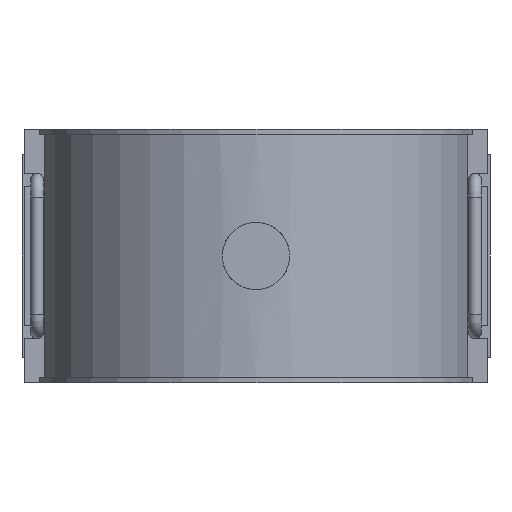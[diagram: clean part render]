
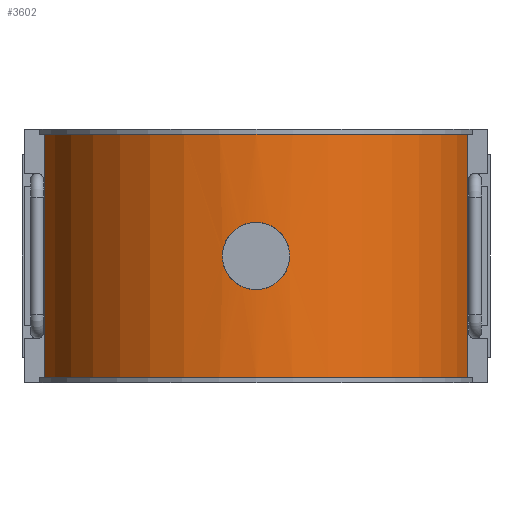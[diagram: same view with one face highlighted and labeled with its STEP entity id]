
A CAD part, front view. The second image highlights one B-rep face of the part: STEP entity #3602.
In plain terms, the highlighted cylindrical face has radius 100.8 mm (diameter 201.6 mm), a partial arc.
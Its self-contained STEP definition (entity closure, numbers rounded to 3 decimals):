
#57=FACE_BOUND('',#543,.T.);
#86=B_SPLINE_CURVE_WITH_KNOTS('',3,(#5706,#5707,#5708,#5709,#5710,#5711,
#5712,#5713,#5714,#5715,#5716,#5717,#5718,#5719,#5720,#5721,#5722,#5723,
#5724,#5725,#5726,#5727,#5728,#5729,#5730,#5731,#5732,#5733,#5734,#5735,
#5736,#5737,#5738,#5739),.UNSPECIFIED.,.F.,.F.,(4,2,2,2,2,2,2,2,2,2,2,2,
2,2,2,2,4),(0.,0.296,0.592,0.888,1.183,
1.479,1.775,2.071,2.367,2.663,
2.958,3.254,3.55,3.846,4.142,
4.438,4.733),.UNSPECIFIED.);
#87=B_SPLINE_CURVE_WITH_KNOTS('',3,(#5740,#5741,#5742,#5743,#5744,#5745,
#5746,#5747,#5748,#5749,#5750,#5751,#5752,#5753,#5754,#5755,#5756,#5757,
#5758,#5759,#5760,#5761,#5762,#5763,#5764,#5765,#5766,#5767,#5768,#5769,
#5770,#5771,#5772,#5773),.UNSPECIFIED.,.F.,.F.,(4,2,2,2,2,2,2,2,2,2,2,2,
2,2,2,2,4),(4.733,5.029,5.325,5.621,
5.917,6.213,6.508,6.804,7.1,
7.396,7.692,7.988,8.283,8.579,
8.875,9.171,9.467),.UNSPECIFIED.);
#335=FACE_OUTER_BOUND('',#542,.T.);
#542=EDGE_LOOP('',(#2828,#2829,#2830,#2831));
#543=EDGE_LOOP('',(#2832,#2833));
#749=CIRCLE('',#3884,100.8);
#761=CIRCLE('',#3905,100.8);
#929=LINE('',#6227,#1261);
#959=LINE('',#6391,#1291);
#1261=VECTOR('',#4495,10.);
#1291=VECTOR('',#4567,10.);
#1597=VERTEX_POINT('',#5703);
#1598=VERTEX_POINT('',#5705);
#1625=VERTEX_POINT('',#6159);
#1626=VERTEX_POINT('',#6161);
#1641=VERTEX_POINT('',#6226);
#1659=VERTEX_POINT('',#6296);
#1997=EDGE_CURVE('',#1598,#1597,#86,.T.);
#1998=EDGE_CURVE('',#1597,#1598,#87,.T.);
#2032=EDGE_CURVE('',#1625,#1626,#749,.T.);
#2050=EDGE_CURVE('',#1641,#1625,#929,.T.);
#2075=EDGE_CURVE('',#1659,#1641,#761,.T.);
#2099=EDGE_CURVE('',#1659,#1626,#959,.T.);
#2828=ORIENTED_EDGE('',*,*,#2032,.T.);
#2829=ORIENTED_EDGE('',*,*,#2099,.F.);
#2830=ORIENTED_EDGE('',*,*,#2075,.T.);
#2831=ORIENTED_EDGE('',*,*,#2050,.T.);
#2832=ORIENTED_EDGE('',*,*,#1997,.T.);
#2833=ORIENTED_EDGE('',*,*,#1998,.T.);
#3497=CYLINDRICAL_SURFACE('',#3913,100.8);
#3602=ADVANCED_FACE('',(#335,#57),#3497,.T.);
#3884=AXIS2_PLACEMENT_3D('',#6163,#4467,#4468);
#3905=AXIS2_PLACEMENT_3D('',#6297,#4536,#4537);
#3913=AXIS2_PLACEMENT_3D('',#6392,#4568,#4569);
#4467=DIRECTION('center_axis',(0.,0.,1.));
#4468=DIRECTION('ref_axis',(-1.,0.,0.));
#4495=DIRECTION('',(0.,0.,-1.));
#4536=DIRECTION('center_axis',(0.,0.,-1.));
#4537=DIRECTION('ref_axis',(-1.,0.,0.));
#4567=DIRECTION('',(0.,0.,-1.));
#4568=DIRECTION('center_axis',(0.,0.,1.));
#4569=DIRECTION('ref_axis',(-1.,0.,0.));
#5703=CARTESIAN_POINT('',(-15.68,-99.573,0.));
#5705=CARTESIAN_POINT('',(15.68,-99.573,0.));
#5706=CARTESIAN_POINT('Ctrl Pts',(15.68,-99.573,0.));
#5707=CARTESIAN_POINT('Ctrl Pts',(15.68,-99.573,-0.986));
#5708=CARTESIAN_POINT('Ctrl Pts',(15.585,-99.588,-2.005));
#5709=CARTESIAN_POINT('Ctrl Pts',(15.188,-99.649,-4.032));
#5710=CARTESIAN_POINT('Ctrl Pts',(14.885,-99.696,-5.039));
#5711=CARTESIAN_POINT('Ctrl Pts',(14.084,-99.812,-6.97));
#5712=CARTESIAN_POINT('Ctrl Pts',(13.586,-99.882,-7.896));
#5713=CARTESIAN_POINT('Ctrl Pts',(12.435,-100.032,-9.607));
#5714=CARTESIAN_POINT('Ctrl Pts',(11.783,-100.111,-10.392));
#5715=CARTESIAN_POINT('Ctrl Pts',(10.392,-100.265,-11.783));
#5716=CARTESIAN_POINT('Ctrl Pts',(9.607,-100.345,-12.435));
#5717=CARTESIAN_POINT('Ctrl Pts',(7.896,-100.494,-13.586));
#5718=CARTESIAN_POINT('Ctrl Pts',(6.97,-100.563,-14.084));
#5719=CARTESIAN_POINT('Ctrl Pts',(5.039,-100.679,-14.885));
#5720=CARTESIAN_POINT('Ctrl Pts',(4.032,-100.724,-15.188));
#5721=CARTESIAN_POINT('Ctrl Pts',(2.005,-100.785,-15.585));
#5722=CARTESIAN_POINT('Ctrl Pts',(0.986,-100.8,-15.68));
#5723=CARTESIAN_POINT('Ctrl Pts',(-0.986,-100.8,-15.68));
#5724=CARTESIAN_POINT('Ctrl Pts',(-2.005,-100.785,-15.585));
#5725=CARTESIAN_POINT('Ctrl Pts',(-4.032,-100.724,-15.188));
#5726=CARTESIAN_POINT('Ctrl Pts',(-5.039,-100.679,-14.885));
#5727=CARTESIAN_POINT('Ctrl Pts',(-6.97,-100.563,-14.084));
#5728=CARTESIAN_POINT('Ctrl Pts',(-7.896,-100.494,-13.586));
#5729=CARTESIAN_POINT('Ctrl Pts',(-9.607,-100.345,-12.435));
#5730=CARTESIAN_POINT('Ctrl Pts',(-10.392,-100.265,-11.783));
#5731=CARTESIAN_POINT('Ctrl Pts',(-11.783,-100.111,-10.392));
#5732=CARTESIAN_POINT('Ctrl Pts',(-12.435,-100.032,-9.607));
#5733=CARTESIAN_POINT('Ctrl Pts',(-13.586,-99.882,-7.896));
#5734=CARTESIAN_POINT('Ctrl Pts',(-14.084,-99.812,-6.97));
#5735=CARTESIAN_POINT('Ctrl Pts',(-14.885,-99.696,-5.039));
#5736=CARTESIAN_POINT('Ctrl Pts',(-15.188,-99.649,-4.032));
#5737=CARTESIAN_POINT('Ctrl Pts',(-15.585,-99.588,-2.005));
#5738=CARTESIAN_POINT('Ctrl Pts',(-15.68,-99.573,-0.986));
#5739=CARTESIAN_POINT('Ctrl Pts',(-15.68,-99.573,0.));
#5740=CARTESIAN_POINT('Ctrl Pts',(-15.68,-99.573,0.));
#5741=CARTESIAN_POINT('Ctrl Pts',(-15.68,-99.573,0.986));
#5742=CARTESIAN_POINT('Ctrl Pts',(-15.585,-99.588,2.005));
#5743=CARTESIAN_POINT('Ctrl Pts',(-15.188,-99.649,4.032));
#5744=CARTESIAN_POINT('Ctrl Pts',(-14.885,-99.696,5.039));
#5745=CARTESIAN_POINT('Ctrl Pts',(-14.084,-99.812,6.97));
#5746=CARTESIAN_POINT('Ctrl Pts',(-13.586,-99.882,7.896));
#5747=CARTESIAN_POINT('Ctrl Pts',(-12.435,-100.032,9.607));
#5748=CARTESIAN_POINT('Ctrl Pts',(-11.783,-100.111,10.392));
#5749=CARTESIAN_POINT('Ctrl Pts',(-10.392,-100.265,11.783));
#5750=CARTESIAN_POINT('Ctrl Pts',(-9.607,-100.345,12.435));
#5751=CARTESIAN_POINT('Ctrl Pts',(-7.896,-100.494,13.586));
#5752=CARTESIAN_POINT('Ctrl Pts',(-6.97,-100.563,14.084));
#5753=CARTESIAN_POINT('Ctrl Pts',(-5.039,-100.679,14.885));
#5754=CARTESIAN_POINT('Ctrl Pts',(-4.032,-100.724,15.188));
#5755=CARTESIAN_POINT('Ctrl Pts',(-2.005,-100.785,15.585));
#5756=CARTESIAN_POINT('Ctrl Pts',(-0.986,-100.8,15.68));
#5757=CARTESIAN_POINT('Ctrl Pts',(0.986,-100.8,15.68));
#5758=CARTESIAN_POINT('Ctrl Pts',(2.005,-100.785,15.585));
#5759=CARTESIAN_POINT('Ctrl Pts',(4.032,-100.724,15.188));
#5760=CARTESIAN_POINT('Ctrl Pts',(5.039,-100.679,14.885));
#5761=CARTESIAN_POINT('Ctrl Pts',(6.97,-100.563,14.084));
#5762=CARTESIAN_POINT('Ctrl Pts',(7.896,-100.494,13.586));
#5763=CARTESIAN_POINT('Ctrl Pts',(9.607,-100.345,12.435));
#5764=CARTESIAN_POINT('Ctrl Pts',(10.392,-100.265,11.783));
#5765=CARTESIAN_POINT('Ctrl Pts',(11.783,-100.111,10.392));
#5766=CARTESIAN_POINT('Ctrl Pts',(12.435,-100.032,9.607));
#5767=CARTESIAN_POINT('Ctrl Pts',(13.586,-99.882,7.896));
#5768=CARTESIAN_POINT('Ctrl Pts',(14.084,-99.812,6.97));
#5769=CARTESIAN_POINT('Ctrl Pts',(14.885,-99.696,5.039));
#5770=CARTESIAN_POINT('Ctrl Pts',(15.188,-99.649,4.032));
#5771=CARTESIAN_POINT('Ctrl Pts',(15.585,-99.588,2.005));
#5772=CARTESIAN_POINT('Ctrl Pts',(15.68,-99.573,0.986));
#5773=CARTESIAN_POINT('Ctrl Pts',(15.68,-99.573,0.));
#6159=CARTESIAN_POINT('',(-98.588,-21.,-56.693));
#6161=CARTESIAN_POINT('',(98.588,-21.,-56.693));
#6163=CARTESIAN_POINT('Origin',(0.,0.,-56.693));
#6226=CARTESIAN_POINT('',(-98.588,-21.,56.693));
#6227=CARTESIAN_POINT('',(-98.588,-21.,0.));
#6296=CARTESIAN_POINT('',(98.588,-21.,56.693));
#6297=CARTESIAN_POINT('Origin',(0.,0.,56.693));
#6391=CARTESIAN_POINT('',(98.588,-21.,0.));
#6392=CARTESIAN_POINT('Origin',(0.,0.,0.));
